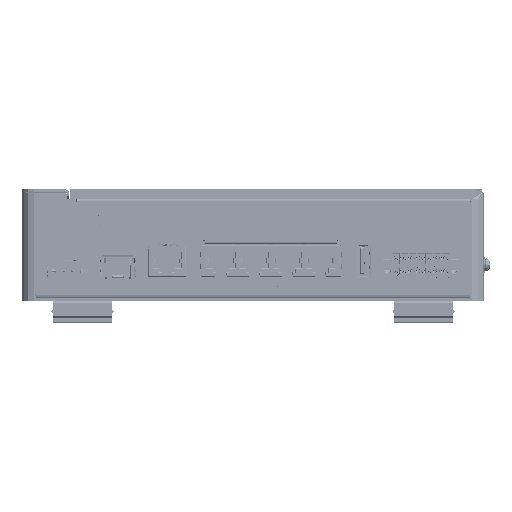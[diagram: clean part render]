
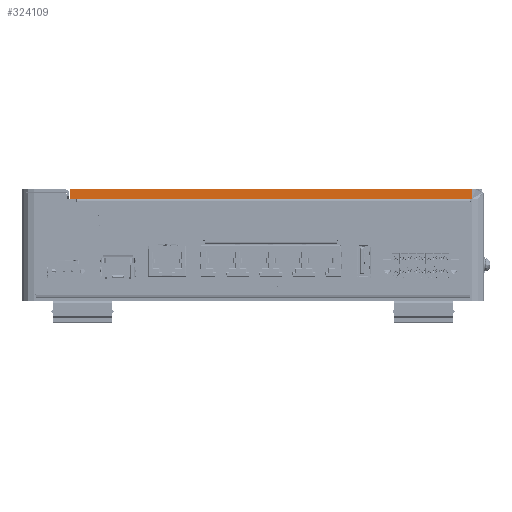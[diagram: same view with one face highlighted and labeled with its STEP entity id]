
A CAD part, top view. The second image highlights one B-rep face of the part: STEP entity #324109.
In plain terms, the highlighted planar face has unit normal (0, 0, 1).
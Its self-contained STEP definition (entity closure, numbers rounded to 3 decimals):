
#1824 = VERTEX_POINT ( 'NONE', #478114 ) ;
#3779 = CARTESIAN_POINT ( 'NONE',  ( -83.4, 18., 0. ) ) ;
#23584 = DIRECTION ( 'NONE',  ( 0.707, 0.707, 0. ) ) ;
#36193 = CARTESIAN_POINT ( 'NONE',  ( -83.2, 22., 0. ) ) ;
#42145 = EDGE_CURVE ( 'NONE', #433023, #440066, #508805, .T. ) ;
#46076 = EDGE_CURVE ( 'NONE', #1824, #449125, #369962, .T. ) ;
#63295 = VECTOR ( 'NONE', #23584, 1000. ) ;
#79139 = EDGE_LOOP ( 'NONE', ( #137296, #385288, #120572, #216416, #209875 ) ) ;
#110214 = DIRECTION ( 'NONE',  ( 0., 1., 0. ) ) ;
#116005 = DIRECTION ( 'NONE',  ( 0., -1., 0. ) ) ;
#120572 = ORIENTED_EDGE ( 'NONE', *, *, #239849, .T. ) ;
#124138 = VECTOR ( 'NONE', #116005, 1000. ) ;
#128673 = FACE_OUTER_BOUND ( 'NONE', #79139, .T. ) ;
#137296 = ORIENTED_EDGE ( 'NONE', *, *, #46076, .F. ) ;
#153634 = CARTESIAN_POINT ( 'NONE',  ( 86.5, 22., 0. ) ) ;
#154736 = CARTESIAN_POINT ( 'NONE',  ( 86.5, 0., 0. ) ) ;
#181706 = LINE ( 'NONE', #339330, #184177 ) ;
#184177 = VECTOR ( 'NONE', #496988, 1000. ) ;
#205890 = CARTESIAN_POINT ( 'NONE',  ( -83.4, 0., 0. ) ) ;
#207230 = VECTOR ( 'NONE', #409867, 1000. ) ;
#207359 = DIRECTION ( 'NONE',  ( 1., 0., 0. ) ) ;
#209875 = ORIENTED_EDGE ( 'NONE', *, *, #223179, .F. ) ;
#216416 = ORIENTED_EDGE ( 'NONE', *, *, #42145, .F. ) ;
#223179 = EDGE_CURVE ( 'NONE', #449125, #433023, #181706, .T. ) ;
#238651 = CARTESIAN_POINT ( 'NONE',  ( 91.5, 18., 0. ) ) ;
#239849 = EDGE_CURVE ( 'NONE', #507341, #440066, #277280, .T. ) ;
#271643 = EDGE_CURVE ( 'NONE', #507341, #1824, #329764, .T. ) ;
#277280 = LINE ( 'NONE', #434878, #289973 ) ;
#289973 = VECTOR ( 'NONE', #207359, 1000. ) ;
#324109 = ADVANCED_FACE ( 'NONE', ( #128673 ), #435025, .F. ) ;
#329764 = LINE ( 'NONE', #205890, #207230 ) ;
#339330 = CARTESIAN_POINT ( 'NONE',  ( 91.5, 22., 0. ) ) ;
#369962 = LINE ( 'NONE', #375064, #63295 ) ;
#375064 = CARTESIAN_POINT ( 'NONE',  ( -83.4, 21.8, 0. ) ) ;
#375602 = CARTESIAN_POINT ( 'NONE',  ( 86.5, 18., 0. ) ) ;
#385288 = ORIENTED_EDGE ( 'NONE', *, *, #271643, .F. ) ;
#409867 = DIRECTION ( 'NONE',  ( 0., 1., 0. ) ) ;
#425469 = DIRECTION ( 'NONE',  ( 0., 0., -1. ) ) ;
#433023 = VERTEX_POINT ( 'NONE', #153634 ) ;
#434878 = CARTESIAN_POINT ( 'NONE',  ( 91.5, 18., 0. ) ) ;
#435025 = PLANE ( 'NONE',  #482692 ) ;
#440066 = VERTEX_POINT ( 'NONE', #375602 ) ;
#449125 = VERTEX_POINT ( 'NONE', #36193 ) ;
#478114 = CARTESIAN_POINT ( 'NONE',  ( -83.4, 21.8, 0. ) ) ;
#482692 = AXIS2_PLACEMENT_3D ( 'NONE', #238651, #425469, #110214 ) ;
#496988 = DIRECTION ( 'NONE',  ( 1., 0., 0. ) ) ;
#507341 = VERTEX_POINT ( 'NONE', #3779 ) ;
#508805 = LINE ( 'NONE', #154736, #124138 ) ;
